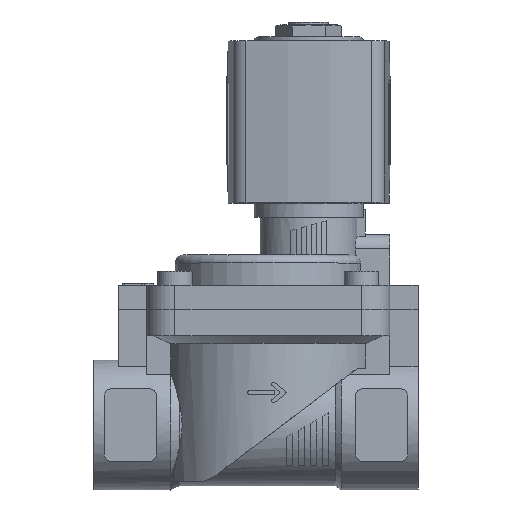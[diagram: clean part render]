
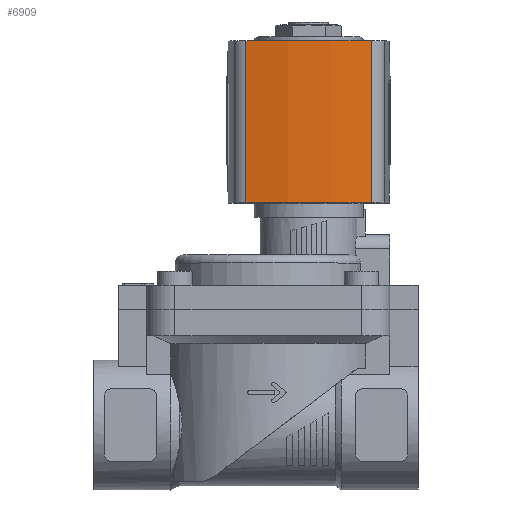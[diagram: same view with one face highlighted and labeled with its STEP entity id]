
A CAD part, top view. The second image highlights one B-rep face of the part: STEP entity #6909.
In plain terms, the highlighted cylindrical face has radius 80 mm (diameter 160 mm), a partial arc.
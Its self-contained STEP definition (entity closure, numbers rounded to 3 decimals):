
#247=CYLINDRICAL_SURFACE('',#7500,80.);
#658=LINE('',#10932,#1160);
#659=LINE('',#10936,#1161);
#1160=VECTOR('',#8986,1000.);
#1161=VECTOR('',#8991,1000.);
#2577=ORIENTED_EDGE('',*,*,#3604,.T.);
#2578=ORIENTED_EDGE('',*,*,#3605,.F.);
#2579=ORIENTED_EDGE('',*,*,#3552,.F.);
#2580=ORIENTED_EDGE('',*,*,#3603,.T.);
#3552=EDGE_CURVE('',#4172,#4173,#4451,.T.);
#3603=EDGE_CURVE('',#4172,#4216,#658,.T.);
#3604=EDGE_CURVE('',#4216,#4217,#4472,.T.);
#3605=EDGE_CURVE('',#4173,#4217,#659,.T.);
#4172=VERTEX_POINT('',#10832);
#4173=VERTEX_POINT('',#10833);
#4216=VERTEX_POINT('',#10931);
#4217=VERTEX_POINT('',#10935);
#4451=CIRCLE('',#7466,80.);
#4472=CIRCLE('',#7501,80.);
#4781=EDGE_LOOP('',(#2577,#2578,#2579,#2580));
#5165=FACE_BOUND('',#4781,.T.);
#6909=ADVANCED_FACE('',(#5165),#247,.T.);
#7466=AXIS2_PLACEMENT_3D('',#10831,#8896,#8897);
#7500=AXIS2_PLACEMENT_3D('',#10933,#8987,#8988);
#7501=AXIS2_PLACEMENT_3D('',#10934,#8989,#8990);
#8896=DIRECTION('',(0.,1.,0.));
#8897=DIRECTION('',(1.,0.,0.));
#8986=DIRECTION('',(0.,-1.,0.));
#8987=DIRECTION('',(0.,-1.,0.));
#8988=DIRECTION('',(0.,0.,-1.));
#8989=DIRECTION('',(0.,1.,0.));
#8990=DIRECTION('',(1.,0.,0.));
#8991=DIRECTION('',(0.,-1.,0.));
#10831=CARTESIAN_POINT('',(-56.5,14.,0.));
#10832=CARTESIAN_POINT('',(21.99,14.,15.472));
#10833=CARTESIAN_POINT('',(21.99,14.,-15.472));
#10931=CARTESIAN_POINT('',(21.99,-26.,15.472));
#10932=CARTESIAN_POINT('',(21.99,14.,15.472));
#10933=CARTESIAN_POINT('',(-56.5,14.,0.));
#10934=CARTESIAN_POINT('',(-56.5,-26.,0.));
#10935=CARTESIAN_POINT('',(21.99,-26.,-15.472));
#10936=CARTESIAN_POINT('',(21.99,14.,-15.472));
